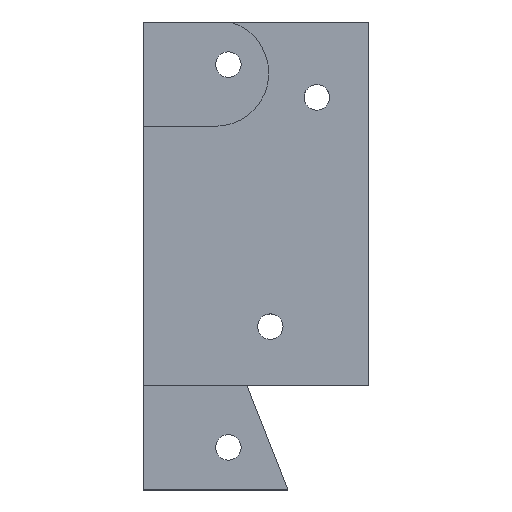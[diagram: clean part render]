
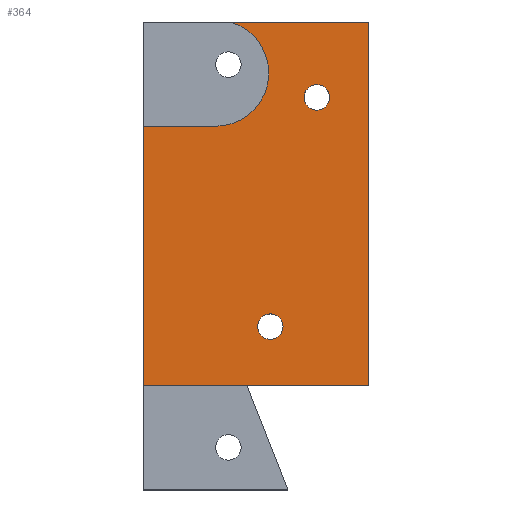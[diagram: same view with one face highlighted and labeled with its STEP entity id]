
A CAD part, top view. The second image highlights one B-rep face of the part: STEP entity #364.
In plain terms, the highlighted planar face has unit normal (0, 0, 1).
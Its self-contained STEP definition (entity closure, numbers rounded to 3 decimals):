
#31=LINE('',#557,#65);
#34=LINE('',#564,#68);
#40=LINE('',#580,#74);
#44=LINE('',#586,#78);
#48=LINE('',#593,#82);
#65=VECTOR('',#457,85.5);
#68=VECTOR('',#462,17.);
#74=VECTOR('',#478,53.);
#78=VECTOR('',#484,32.5);
#82=VECTOR('',#492,61.);
#94=PLANE('',#397);
#104=FACE_BOUND('',#153,.T.);
#105=FACE_BOUND('',#154,.T.);
#125=FACE_OUTER_BOUND('',#152,.T.);
#152=EDGE_LOOP('',(#325,#326,#327,#328,#329,#330));
#153=EDGE_LOOP('',(#331));
#154=EDGE_LOOP('',(#332));
#159=CIRCLE('',#370,3.);
#165=CIRCLE('',#379,3.);
#169=CIRCLE('',#392,12.5);
#171=VERTEX_POINT('',#501);
#177=VERTEX_POINT('',#516);
#191=VERTEX_POINT('',#554);
#192=VERTEX_POINT('',#556);
#193=VERTEX_POINT('',#560);
#195=VERTEX_POINT('',#563);
#199=VERTEX_POINT('',#575);
#200=VERTEX_POINT('',#579);
#204=EDGE_CURVE('',#171,#171,#159,.T.);
#210=EDGE_CURVE('',#177,#177,#165,.T.);
#229=EDGE_CURVE('',#192,#191,#31,.T.);
#232=EDGE_CURVE('',#195,#193,#34,.T.);
#239=EDGE_CURVE('',#199,#195,#169,.T.);
#240=EDGE_CURVE('',#200,#192,#40,.T.);
#244=EDGE_CURVE('',#191,#199,#44,.T.);
#248=EDGE_CURVE('',#193,#200,#48,.T.);
#325=ORIENTED_EDGE('',*,*,#232,.T.);
#326=ORIENTED_EDGE('',*,*,#248,.T.);
#327=ORIENTED_EDGE('',*,*,#240,.T.);
#328=ORIENTED_EDGE('',*,*,#229,.T.);
#329=ORIENTED_EDGE('',*,*,#244,.T.);
#330=ORIENTED_EDGE('',*,*,#239,.T.);
#331=ORIENTED_EDGE('',*,*,#204,.T.);
#332=ORIENTED_EDGE('',*,*,#210,.T.);
#364=ADVANCED_FACE('',(#125,#104,#105),#94,.T.);
#370=AXIS2_PLACEMENT_3D('',#502,#405,#406);
#379=AXIS2_PLACEMENT_3D('',#517,#423,#424);
#392=AXIS2_PLACEMENT_3D('',#577,#474,#475);
#397=AXIS2_PLACEMENT_3D('',#594,#493,#494);
#405=DIRECTION('center_axis',(0.,0.,-1.));
#406=DIRECTION('ref_axis',(1.,0.,0.));
#423=DIRECTION('center_axis',(0.,0.,-1.));
#424=DIRECTION('ref_axis',(1.,0.,0.));
#457=DIRECTION('',(0.,1.,0.));
#462=DIRECTION('',(-1.,0.,0.));
#474=DIRECTION('center_axis',(0.,0.,-1.));
#475=DIRECTION('ref_axis',(-1.,0.,0.));
#478=DIRECTION('',(1.,0.,0.));
#484=DIRECTION('',(-1.,0.,0.));
#492=DIRECTION('',(0.,-1.,0.));
#493=DIRECTION('center_axis',(0.,0.,1.));
#494=DIRECTION('ref_axis',(1.,0.,0.));
#501=CARTESIAN_POINT('',(17.3,37.287,12.));
#502=CARTESIAN_POINT('Origin',(14.3,37.287,12.));
#516=CARTESIAN_POINT('',(6.36,-16.614,12.));
#517=CARTESIAN_POINT('Origin',(3.36,-16.614,12.));
#554=CARTESIAN_POINT('',(26.5,55.,12.));
#556=CARTESIAN_POINT('',(26.5,-30.5,12.));
#557=CARTESIAN_POINT('',(26.5,-55.,12.));
#560=CARTESIAN_POINT('',(-26.5,30.5,12.));
#563=CARTESIAN_POINT('',(-9.5,30.5,12.));
#564=CARTESIAN_POINT('',(-11.375,30.5,12.));
#575=CARTESIAN_POINT('',(-6.,55.,12.));
#577=CARTESIAN_POINT('Origin',(-9.5,43.,12.));
#579=CARTESIAN_POINT('',(-26.5,-30.5,12.));
#580=CARTESIAN_POINT('',(-27.75,-30.5,12.));
#586=CARTESIAN_POINT('',(26.5,55.,12.));
#593=CARTESIAN_POINT('',(-26.5,55.,12.));
#594=CARTESIAN_POINT('Origin',(-13.25,27.5,12.));
